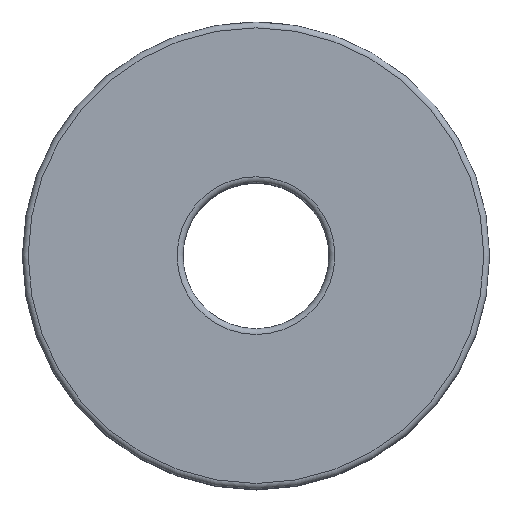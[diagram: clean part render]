
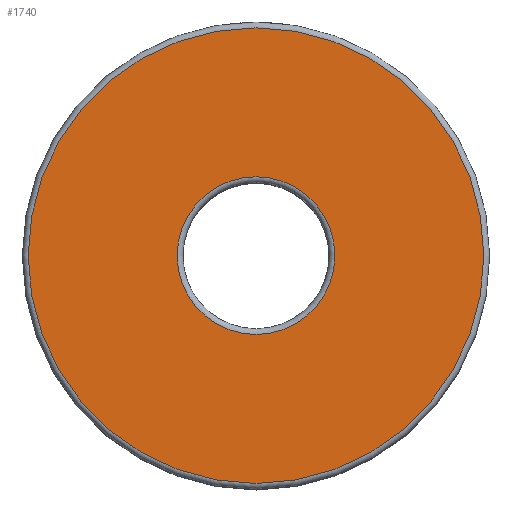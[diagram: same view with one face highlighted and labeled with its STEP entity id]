
A CAD part, top view. The second image highlights one B-rep face of the part: STEP entity #1740.
In plain terms, the highlighted planar face has unit normal (0, 0, 1).
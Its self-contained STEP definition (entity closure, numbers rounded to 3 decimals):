
#22=PLANE('',#2012);
#27=FACE_BOUND('',#214,.T.);
#117=FACE_OUTER_BOUND('',#213,.T.);
#213=EDGE_LOOP('',(#1440));
#214=EDGE_LOOP('',(#1441));
#561=CIRCLE('',#2013,7.8);
#562=CIRCLE('',#2014,2.7);
#746=VERTEX_POINT('',#3215);
#747=VERTEX_POINT('',#3217);
#1008=EDGE_CURVE('',#746,#746,#561,.T.);
#1009=EDGE_CURVE('',#747,#747,#562,.F.);
#1440=ORIENTED_EDGE('',*,*,#1008,.T.);
#1441=ORIENTED_EDGE('',*,*,#1009,.T.);
#1740=ADVANCED_FACE('',(#117,#27),#22,.T.);
#2012=AXIS2_PLACEMENT_3D('',#3214,#2618,#2619);
#2013=AXIS2_PLACEMENT_3D('',#3216,#2620,#2621);
#2014=AXIS2_PLACEMENT_3D('',#3218,#2622,#2623);
#2618=DIRECTION('center_axis',(0.,0.,1.));
#2619=DIRECTION('ref_axis',(1.,0.,0.));
#2620=DIRECTION('center_axis',(0.,0.,1.));
#2621=DIRECTION('ref_axis',(1.,0.,0.));
#2622=DIRECTION('center_axis',(0.,0.,1.));
#2623=DIRECTION('ref_axis',(1.,0.,0.));
#3214=CARTESIAN_POINT('Origin',(0.,0.,8.));
#3215=CARTESIAN_POINT('',(-7.8,0.,8.));
#3216=CARTESIAN_POINT('Origin',(0.,0.,8.));
#3217=CARTESIAN_POINT('',(-2.7,0.,8.));
#3218=CARTESIAN_POINT('Origin',(0.,0.,8.));
